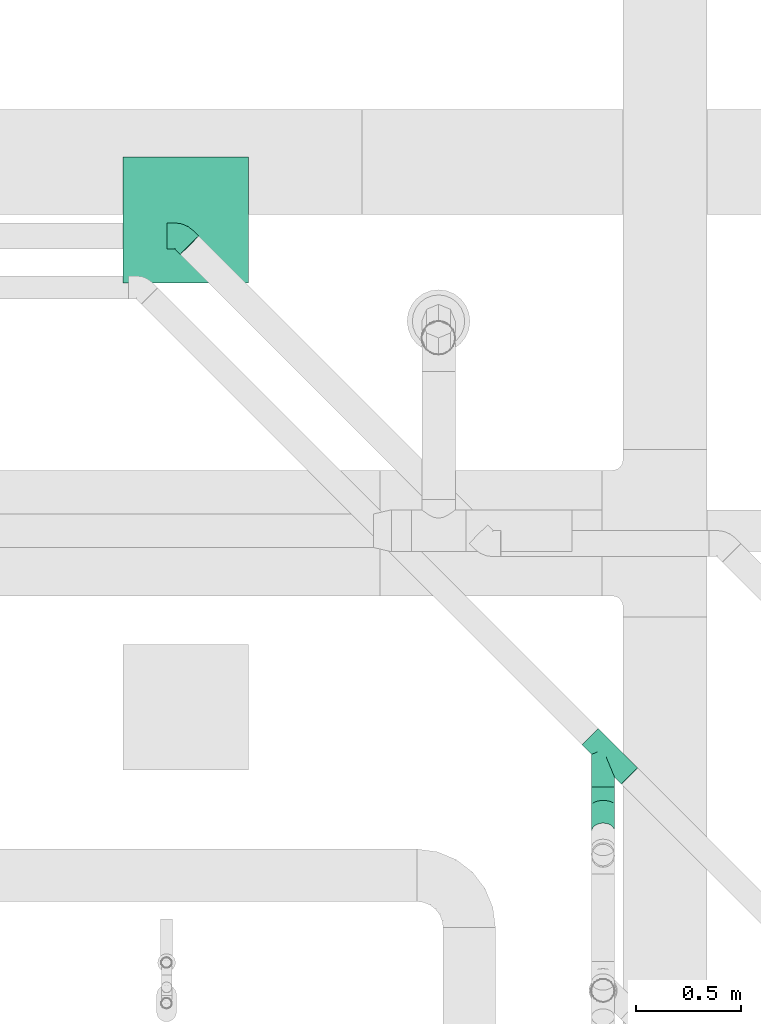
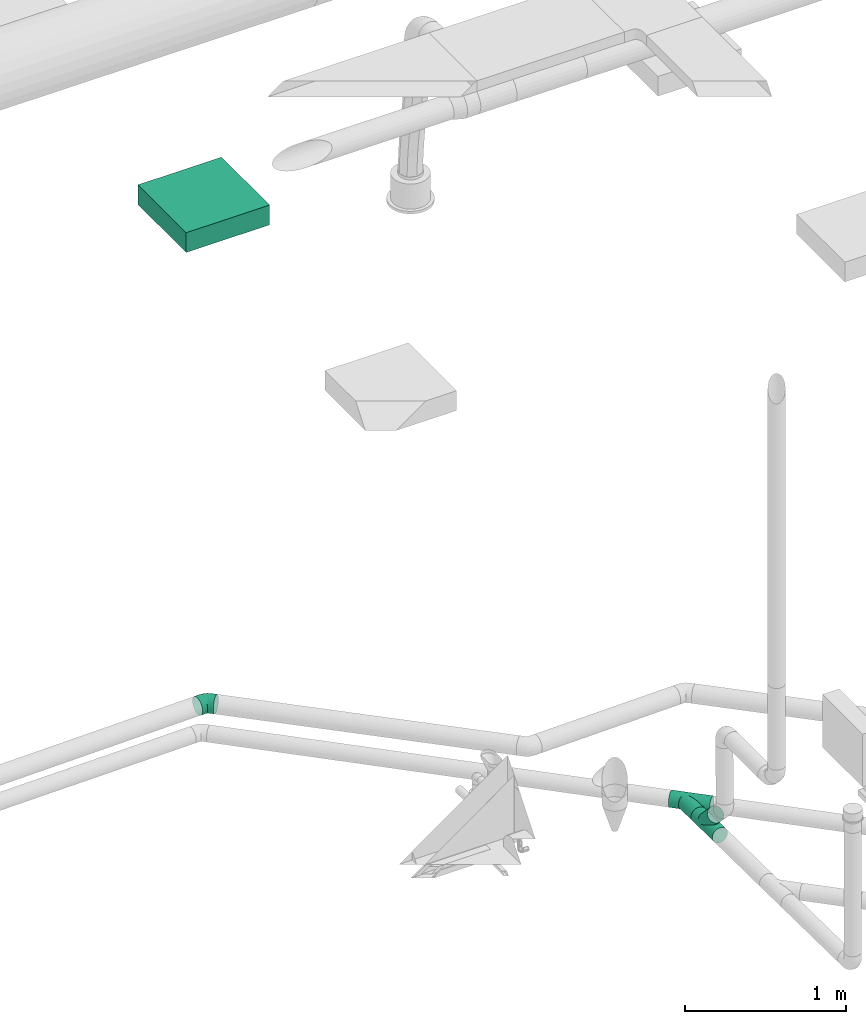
# One storey, part 172 of 374: 3 flow fittings, 1 distribution element.
"""IFC2X3 building model written with IfcOpenShell, lengths in metres."""

from ifc_helpers import new_model, si_unit, direction, frame, frame_2d, origin, place, context, subcontext, project, spatial, rectangle, extrude, open_shell, surface_model, source, transform, mapped, element, save


model = new_model("IFC2X3")

# Units and contexts
model_context = context("Model", 3, precision=1e-05, world=origin(), true_north=direction((-0.4480736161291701, 0.8939966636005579)))
body_context = subcontext(model_context, "Body", "Model", "MODEL_VIEW")
ifc_project = project(units=[si_unit("LENGTHUNIT", "METRE"), si_unit("AREAUNIT", "SQUARE_METRE"), si_unit("VOLUMEUNIT", "CUBIC_METRE"), si_unit("PLANEANGLEUNIT", "RADIAN"), si_unit("THERMODYNAMICTEMPERATUREUNIT", "KELVIN"), si_unit("MASSUNIT", "GRAM", prefix="KILO"), si_unit("TIMEUNIT", "SECOND")], contexts=[model_context])

# Site, building, storey
site_placement = place(None, origin())
site = spatial("IfcSite", under=ifc_project, at=site_placement, Name="Site 1", CompositionType="ELEMENT")
building_placement = place(site_placement, origin())
building = spatial("IfcBuilding", under=site, at=building_placement, Name="Undefined", CompositionType="ELEMENT")
storey_placement = place(building_placement, origin())
storey = spatial("IfcBuildingStorey", under=building, at=storey_placement, Name="Rez de chauss\x8ee", CompositionType="ELEMENT", Elevation=0.0)

# Flow fittings
shared_shape_1 = source(origin(), body_context, "Body", "SurfaceModel", [
    surface_model("IfcFaceBasedSurfaceModel", [(0.2656999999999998, 0.0, 0.0), (0.2656999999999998, 0.014357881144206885, 0.0), (0.0, 0.014357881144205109, -3.552713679e-15), (0.0, 0.0, 0.0), (0.2656999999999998, 0.028226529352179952, -0.0037160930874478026), (0.0, 0.028226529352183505, -0.0037160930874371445), (0.2656999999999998, 0.04066081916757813, -0.01089503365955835), (0.0, 0.04066081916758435, -0.010895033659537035), (0.2656999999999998, 0.050813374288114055, -0.021047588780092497), (0.0, 0.050813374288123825, -0.021047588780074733), (0.2656999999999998, 0.05799231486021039, -0.03348187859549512), (0.0, 0.05799231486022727, -0.033481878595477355), (0.2656999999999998, 0.061708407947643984, -0.04735052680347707), (0.0, 0.061708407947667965, -0.0473505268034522), (0.2656999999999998, 0.06170840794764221, -0.06170840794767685), (0.0, 0.06170840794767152, -0.06170840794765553), (0.2656999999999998, 0.05799231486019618, -0.07557705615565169), (0.0, 0.05799231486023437, -0.07557705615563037), (0.2656999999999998, 0.0508133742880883, -0.08801134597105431), (0.0, 0.05081337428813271, -0.08801134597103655), (0.2656999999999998, 0.04066081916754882, -0.09816390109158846), (0.0, 0.040660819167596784, -0.0981639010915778), (0.2656999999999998, 0.02822652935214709, -0.1053428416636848), (0.0, 0.028226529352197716, -0.10534284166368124), (0.2656999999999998, 0.014357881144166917, -0.10905893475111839), (0.0, 0.014357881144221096, -0.10905893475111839), (0.2656999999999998, -3.6415315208e-14, -0.10905893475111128), (0.0, 1.5987211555e-14, -0.10905893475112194), (0.2656999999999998, -0.013868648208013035, -0.10534284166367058), (0.0, -0.013868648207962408, -0.1053428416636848), (0.2656999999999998, -0.026302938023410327, -0.09816390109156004), (0.0, -0.026302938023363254, -0.0981639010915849), (0.2656999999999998, -0.036455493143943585, -0.08801134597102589), (0.0, -0.03645549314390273, -0.08801134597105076), (0.2656999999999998, -0.04363443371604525, -0.07557705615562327), (0.0, -0.04363443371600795, -0.07557705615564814), (0.2656999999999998, -0.04735052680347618, -0.06170840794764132), (0.0, -0.04735052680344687, -0.06170840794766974), (0.2656999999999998, -0.0473505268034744, -0.047350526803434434), (0.0, -0.04735052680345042, -0.04735052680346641), (0.2656999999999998, -0.043634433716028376, -0.033481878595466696), (0.0, -0.04363443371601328, -0.033481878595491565), (0.2656999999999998, -0.03645549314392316, -0.021047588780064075), (0.0, -0.03645549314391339, -0.021047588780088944), (0.2656999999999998, -0.026302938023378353, -0.010895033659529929), (0.0, -0.026302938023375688, -0.010895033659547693), (0.2656999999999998, -0.013868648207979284, -0.003716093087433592), (0.0, -0.01386864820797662, -0.0037160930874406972), (0.04506825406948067, -0.04735052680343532, -0.06170840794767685), (0.04959268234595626, -0.04363443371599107, -0.07557705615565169), (0.014525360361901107, -0.07840174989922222, -0.08015426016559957), (0.013200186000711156, -0.07894595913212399, -0.06586802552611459), (0.0628576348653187, -0.03645549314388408, -0.08801134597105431), (0.0184105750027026, -0.08052230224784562, -0.09381285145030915), (0.08395912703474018, -0.026302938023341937, -0.09816390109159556), (0.02459105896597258, -0.08516310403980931, -0.10591298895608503), (0.11145912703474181, -0.013868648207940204, -0.1053428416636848), (0.03264562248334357, -0.09200789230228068, -0.11563006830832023), (0.14348355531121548, 3.8191672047e-14, -0.10905893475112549), (0.042025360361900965, -0.10059020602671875, -0.12230188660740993), (0.17785000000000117, 0.014357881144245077, -0.10905893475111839), (0.05209105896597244, -0.1103251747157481, -0.12547377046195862), (0.1837463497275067, 3.8191672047e-14, -0.10905893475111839), (0.06215675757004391, -0.12054937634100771, -0.12492956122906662), (0.18924087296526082, -0.013868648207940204, -0.10534284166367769), (0.07153649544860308, -0.13056604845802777, -0.12070634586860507), (0.1939591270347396, -0.02630293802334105, -0.09816390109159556), (0.07959105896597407, -0.13969257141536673, -0.11309192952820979), (0.19757957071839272, -0.03645549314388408, -0.0880113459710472), (0.08577154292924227, -0.14730698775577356, -0.10260522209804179), (0.1998554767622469, -0.04363443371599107, -0.07557705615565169), (0.08965675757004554, -0.1528903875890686, -0.08996087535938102), (0.20063174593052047, -0.04735052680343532, -0.06170840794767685), (0.09098193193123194, -0.15606227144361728, -0.07602058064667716), (0.1998554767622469, -0.047350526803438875, -0.04735052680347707), (0.08965675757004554, -0.15660648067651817, -0.0617343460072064), (0.19757957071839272, -0.04363443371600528, -0.03348187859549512), (0.08577154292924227, -0.15448592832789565, -0.048075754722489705), (0.1939591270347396, -0.03645549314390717, -0.021047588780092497), (0.07959105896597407, -0.14984512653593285, -0.03597561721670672), (0.18924087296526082, -0.026302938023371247, -0.010895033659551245), (0.07153649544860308, -0.1430003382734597, -0.026258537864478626), (0.1837463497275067, -0.013868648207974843, -0.0037160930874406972), (0.06215675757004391, -0.13441802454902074, -0.019586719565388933), (0.17785000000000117, 8.8817842e-16, 0.0), (0.05209105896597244, -0.12468305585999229, -0.016414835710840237), (0.14348355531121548, -0.013868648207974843, -0.0037160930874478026), (0.042025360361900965, -0.11445885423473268, -0.016959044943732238), (0.11145912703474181, -0.026302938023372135, -0.01089503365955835), (0.03264562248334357, -0.10444218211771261, -0.02118226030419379), (0.08395912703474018, -0.03645549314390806, -0.021047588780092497), (0.02459105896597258, -0.09531565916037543, -0.028796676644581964), (0.0628576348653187, -0.04363443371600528, -0.033481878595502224), (0.0184105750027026, -0.08770124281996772, -0.039283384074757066), (0.04959268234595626, -0.047350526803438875, -0.04735052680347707), (0.014525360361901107, -0.0821178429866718, -0.051927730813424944)], [open_shell([[[0, 1, 2, 3]], [[1, 4, 5, 2]], [[4, 6, 7, 5]], [[6, 8, 9, 7]], [[8, 10, 11, 9]], [[10, 12, 13, 11]], [[12, 14, 15, 13]], [[14, 16, 17, 15]], [[16, 18, 19, 17]], [[18, 20, 21, 19]], [[20, 22, 23, 21]], [[22, 24, 25, 23]], [[24, 26, 27, 25]], [[26, 28, 29, 27]], [[28, 30, 31, 29]], [[30, 32, 33, 31]], [[32, 34, 35, 33]], [[34, 36, 37, 35]], [[36, 38, 39, 37]], [[38, 40, 41, 39]], [[40, 42, 43, 41]], [[42, 44, 45, 43]], [[44, 46, 47, 45]], [[46, 0, 3, 47]], [[48, 49, 50, 51]], [[49, 52, 53, 50]], [[52, 54, 55, 53]], [[54, 56, 57, 55]], [[56, 58, 59, 57]], [[58, 60, 61, 59]], [[60, 62, 63, 61]], [[62, 64, 65, 63]], [[64, 66, 67, 65]], [[66, 68, 69, 67]], [[68, 70, 71, 69]], [[70, 72, 73, 71]], [[72, 74, 75, 73]], [[74, 76, 77, 75]], [[76, 78, 79, 77]], [[78, 80, 81, 79]], [[80, 82, 83, 81]], [[82, 84, 85, 83]], [[84, 86, 87, 85]], [[86, 88, 89, 87]], [[88, 90, 91, 89]], [[90, 92, 93, 91]], [[92, 94, 95, 93]], [[94, 48, 51, 95]]])]),
])
flow_fitting_1_placement = place(storey_placement, origin())
element("IfcFlowFitting", 1, at=flow_fitting_1_placement, inside=storey, Name="PE-HD embranchement 45°", ObjectType="PE-HD embranchement 45°", context=body_context, shape_type="MappedRepresentation", body=[
    mapped(shared_shape_1, transform((57.20089479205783, 14.783699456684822, -1.2652672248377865), x_axis=(-0.7070272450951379, 0.7070272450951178, -0.014998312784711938), y_axis=(0.7002982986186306, 0.7029361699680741, 0.12435044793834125), z_axis=(0.0984620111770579, 0.07741586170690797, -0.9921250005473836))),
])
shared_shape_2 = source(origin(), body_context, "Body", "SurfaceModel", [
    surface_model("IfcFaceBasedSurfaceModel", [(0.0, 0.014357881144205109, -3.552713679e-15), (0.0, 0.0, 0.0), (0.2656999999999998, 0.0, 0.0), (0.2656999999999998, 0.014357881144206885, 0.0), (0.0, -0.01386864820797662, -0.0037160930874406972), (0.2656999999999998, -0.013868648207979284, -0.003716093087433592), (0.0, -0.026302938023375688, -0.010895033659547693), (0.2656999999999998, -0.026302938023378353, -0.010895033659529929), (0.0, -0.03645549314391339, -0.021047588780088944), (0.2656999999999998, -0.03645549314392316, -0.021047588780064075), (0.0, -0.04363443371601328, -0.033481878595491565), (0.2656999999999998, -0.043634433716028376, -0.033481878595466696), (0.0, -0.04735052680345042, -0.04735052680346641), (0.2656999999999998, -0.0473505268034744, -0.047350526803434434), (0.0, -0.04735052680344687, -0.06170840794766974), (0.2656999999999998, -0.04735052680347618, -0.06170840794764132), (0.0, -0.04363443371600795, -0.07557705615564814), (0.2656999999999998, -0.04363443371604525, -0.07557705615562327), (0.0, -0.03645549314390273, -0.08801134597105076), (0.2656999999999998, -0.036455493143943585, -0.08801134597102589), (0.0, -0.026302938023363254, -0.0981639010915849), (0.2656999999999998, -0.026302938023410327, -0.09816390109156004), (0.0, -0.013868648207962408, -0.1053428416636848), (0.2656999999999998, -0.013868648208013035, -0.10534284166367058), (0.0, 1.5987211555e-14, -0.10905893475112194), (0.2656999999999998, -3.6415315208e-14, -0.10905893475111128), (0.0, 0.014357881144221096, -0.10905893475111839), (0.2656999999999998, 0.014357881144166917, -0.10905893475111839), (0.0, 0.028226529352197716, -0.10534284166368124), (0.2656999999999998, 0.02822652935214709, -0.1053428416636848), (0.0, 0.040660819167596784, -0.0981639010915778), (0.2656999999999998, 0.04066081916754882, -0.09816390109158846), (0.0, 0.05081337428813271, -0.08801134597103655), (0.2656999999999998, 0.0508133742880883, -0.08801134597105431), (0.0, 0.05799231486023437, -0.07557705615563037), (0.2656999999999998, 0.05799231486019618, -0.07557705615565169), (0.0, 0.06170840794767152, -0.06170840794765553), (0.2656999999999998, 0.06170840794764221, -0.06170840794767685), (0.0, 0.061708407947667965, -0.0473505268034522), (0.2656999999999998, 0.061708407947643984, -0.04735052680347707), (0.0, 0.05799231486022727, -0.033481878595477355), (0.2656999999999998, 0.05799231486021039, -0.03348187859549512), (0.0, 0.050813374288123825, -0.021047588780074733), (0.2656999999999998, 0.050813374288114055, -0.021047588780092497), (0.0, 0.04066081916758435, -0.010895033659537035), (0.2656999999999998, 0.04066081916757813, -0.01089503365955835), (0.0, 0.028226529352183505, -0.0037160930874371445), (0.2656999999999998, 0.028226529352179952, -0.0037160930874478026), (0.22063174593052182, 0.06170840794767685, -0.06170840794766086), (0.21610731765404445, 0.05799231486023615, -0.07557705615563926), (0.2511746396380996, 0.09275963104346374, -0.08015426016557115), (0.2524998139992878, 0.09330384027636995, -0.06586802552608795), (0.202842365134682, 0.0508133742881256, -0.08801134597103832), (0.24728942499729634, 0.09488018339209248, -0.09381285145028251), (0.18174087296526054, 0.04066081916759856, -0.0981639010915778), (0.2411089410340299, 0.09952098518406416, -0.10591298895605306), (0.15424087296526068, 0.028226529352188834, -0.10534284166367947), (0.2330543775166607, 0.10636577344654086, -0.11563006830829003), (0.12221644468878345, 0.01435788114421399, -0.10905893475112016), (0.22367463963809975, 0.11494808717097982, -0.12230188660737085), (0.08784999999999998, -3.6415315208e-14, -0.10905893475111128), (0.2136089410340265, 0.12468305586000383, -0.1254737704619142), (0.08195365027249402, 0.014357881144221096, -0.10905893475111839), (0.20354324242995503, 0.134907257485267, -0.12492956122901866), (0.07645912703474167, 0.028226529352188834, -0.10534284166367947), (0.19416350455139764, 0.14492392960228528, -0.12070634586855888), (0.07174087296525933, 0.04066081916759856, -0.0981639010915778), (0.18610894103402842, 0.15405045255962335, -0.11309192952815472), (0.06812042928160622, 0.0508133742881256, -0.08801134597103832), (0.17992845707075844, 0.16166486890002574, -0.1026052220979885), (0.06584452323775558, 0.057992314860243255, -0.07557705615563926), (0.17604324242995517, 0.1672482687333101, -0.08996087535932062), (0.06506825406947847, 0.06170840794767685, -0.061708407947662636), (0.174718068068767, 0.1704201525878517, -0.07602058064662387), (0.0658445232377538, 0.06170840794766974, -0.047350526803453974), (0.17604324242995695, 0.17096436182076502, -0.061734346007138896), (0.06812042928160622, 0.05799231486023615, -0.03348187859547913), (0.17992845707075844, 0.16884380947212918, -0.04807575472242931), (0.0717408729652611, 0.0508133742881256, -0.021047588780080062), (0.18610894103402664, 0.1642030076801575, -0.035975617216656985), (0.0764591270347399, 0.040660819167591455, -0.010895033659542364), (0.19416350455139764, 0.1573582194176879, -0.026258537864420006), (0.08195365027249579, 0.028226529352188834, -0.0037160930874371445), (0.2035432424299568, 0.14877590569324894, -0.01958671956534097), (0.08784999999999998, 0.014357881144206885, 0.0), (0.21360894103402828, 0.13904093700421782, -0.016414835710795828), (0.12221644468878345, 0.028226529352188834, -0.003716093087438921), (0.22367463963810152, 0.12881673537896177, -0.01695904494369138), (0.1542408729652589, 0.040660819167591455, -0.010895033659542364), (0.23305437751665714, 0.11880006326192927, -0.021182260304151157), (0.1817408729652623, 0.0508133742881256, -0.021047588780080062), (0.24110894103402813, 0.1096735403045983, -0.02879667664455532), (0.20284236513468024, 0.057992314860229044, -0.03348187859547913), (0.24728942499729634, 0.10205912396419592, -0.03928338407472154), (0.21610731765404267, 0.06170840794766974, -0.04735052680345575), (0.2511746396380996, 0.09647572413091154, -0.05192773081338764)], [open_shell([[[0, 1, 2, 3]], [[1, 4, 5, 2]], [[4, 6, 7, 5]], [[6, 8, 9, 7]], [[8, 10, 11, 9]], [[10, 12, 13, 11]], [[12, 14, 15, 13]], [[14, 16, 17, 15]], [[16, 18, 19, 17]], [[18, 20, 21, 19]], [[20, 22, 23, 21]], [[22, 24, 25, 23]], [[24, 26, 27, 25]], [[26, 28, 29, 27]], [[28, 30, 31, 29]], [[30, 32, 33, 31]], [[32, 34, 35, 33]], [[34, 36, 37, 35]], [[36, 38, 39, 37]], [[38, 40, 41, 39]], [[40, 42, 43, 41]], [[42, 44, 45, 43]], [[44, 46, 47, 45]], [[46, 0, 3, 47]], [[48, 49, 50, 51]], [[49, 52, 53, 50]], [[52, 54, 55, 53]], [[54, 56, 57, 55]], [[56, 58, 59, 57]], [[58, 60, 61, 59]], [[60, 62, 63, 61]], [[62, 64, 65, 63]], [[64, 66, 67, 65]], [[66, 68, 69, 67]], [[68, 70, 71, 69]], [[70, 72, 73, 71]], [[72, 74, 75, 73]], [[74, 76, 77, 75]], [[76, 78, 79, 77]], [[78, 80, 81, 79]], [[80, 82, 83, 81]], [[82, 84, 85, 83]], [[84, 86, 87, 85]], [[86, 88, 89, 87]], [[88, 90, 91, 89]], [[90, 92, 93, 91]], [[92, 94, 95, 93]], [[94, 48, 51, 95]]])]),
])
flow_fitting_2_placement = place(storey_placement, origin())
element("IfcFlowFitting", 2, at=flow_fitting_2_placement, inside=storey, Name="PE-HD embranchement 45°", ObjectType="PE-HD embranchement 45°", context=body_context, shape_type="MappedRepresentation", body=[
    mapped(shared_shape_2, transform((57.02178955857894, 14.732205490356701, -1.224621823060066), x_axis=(0.00038210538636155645, -0.9998875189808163, 0.014993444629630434), y_axis=(-0.13266697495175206, 0.014810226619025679, 0.9910500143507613), z_axis=(-0.9911605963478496, -0.0023678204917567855, -0.13264639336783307))),
])
shared_shape_3 = source(origin(), body_context, "Body", "SurfaceModel", [
    surface_model("IfcFaceBasedSurfaceModel", [(0.0, 0.0163157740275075, 0.0), (0.0, 0.0, 0.0), (0.03640000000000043, 0.0, 0.0), (0.03640000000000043, 0.01631577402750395, -8.8817842e-16), (0.0, -0.015759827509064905, -0.004222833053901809), (0.03640000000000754, -0.01575982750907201, -0.00422283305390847), (0.0, -0.029889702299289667, -0.012380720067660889), (0.03640000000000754, -0.02988970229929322, -0.012380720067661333), (0.0, -0.04142669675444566, -0.02391771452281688), (0.03640000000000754, -0.04142669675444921, -0.023917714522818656), (0.0, -0.04958458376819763, -0.038047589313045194), (0.03640000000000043, -0.04958458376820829, -0.038047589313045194), (0.0, -0.053807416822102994, -0.053807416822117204), (0.03640000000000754, -0.053807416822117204, -0.05380741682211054), (0.0, -0.053807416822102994, -0.07012319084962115), (0.03639999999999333, -0.053807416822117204, -0.07012319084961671), (0.0, -0.04958458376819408, -0.08588301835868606), (0.03640000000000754, -0.04958458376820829, -0.08588301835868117), (0.0, -0.04142669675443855, -0.10001289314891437), (0.03640000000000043, -0.041426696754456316, -0.1000128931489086), (0.0, -0.02988970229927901, -0.11154988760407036), (0.03640000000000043, -0.02988970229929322, -0.11154988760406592), (0.0, -0.015759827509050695, -0.11970777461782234), (0.03640000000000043, -0.015759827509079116, -0.11970777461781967), (0.0, 1.4210854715e-14, -0.12393060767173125), (0.03640000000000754, -1.4210854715e-14, -0.12393060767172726), (0.0, 0.016315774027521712, -0.12393060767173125), (0.03640000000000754, 0.01631577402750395, -0.12393060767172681), (0.0, 0.03207560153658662, -0.11970777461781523), (0.03640000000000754, 0.032075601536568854, -0.11970777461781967), (0.0, 0.04620547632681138, -0.11154988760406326), (0.03640000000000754, 0.04620547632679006, -0.11154988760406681), (0.0, 0.05774247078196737, -0.10001289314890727), (0.03640000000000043, 0.05774247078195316, -0.10001289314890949), (0.0, 0.06590035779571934, -0.08588301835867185), (0.03640000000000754, 0.06590035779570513, -0.08588301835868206), (0.0, 0.0701231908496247, -0.07012319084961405), (0.03640000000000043, 0.07012319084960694, -0.07012319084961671), (0.0, 0.0701231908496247, -0.05380741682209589), (0.03640000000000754, 0.07012319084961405, -0.05380741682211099), (0.0, 0.06590035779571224, -0.03804758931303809), (0.03640000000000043, 0.06590035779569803, -0.03804758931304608), (0.0, 0.05774247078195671, -0.023917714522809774), (0.03640000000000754, 0.057742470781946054, -0.0239177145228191), (0.0, 0.04620547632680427, -0.012380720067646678), (0.03640000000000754, 0.04620547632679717, -0.012380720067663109), (0.0, 0.03207560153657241, -0.004222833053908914), (0.03640000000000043, 0.032075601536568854, -0.00422283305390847), (0.06832402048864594, -0.04964138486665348, -0.07067165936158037), (0.06887509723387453, -0.04956947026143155, -0.054365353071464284), (0.09807338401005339, -0.037427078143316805, -0.0722797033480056), (0.09913799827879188, -0.037144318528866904, -0.056001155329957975), (0.12362157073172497, -0.0179965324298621, -0.07483778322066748), (0.12512720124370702, -0.017378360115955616, -0.05860339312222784), (0.06670834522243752, -0.04562939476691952, -0.08640372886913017), (0.09495209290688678, -0.034033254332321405, -0.08793038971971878), (0.11920728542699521, -0.01558608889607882, -0.09035900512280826), (0.06413817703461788, -0.037806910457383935, -0.100489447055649), (0.08998683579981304, -0.027194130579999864, -0.10188664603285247), (0.11218517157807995, -0.010311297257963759, -0.10410931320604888), (0.060788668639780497, -0.026707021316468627, -0.11196889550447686), (0.08351598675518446, -0.01737578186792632, -0.11319737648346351), (0.10303377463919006, -0.0025316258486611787, -0.11515164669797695), (0.05688808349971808, -0.013086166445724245, -0.12005976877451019), (0.07598052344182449, -0.00524731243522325, -0.1210917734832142), (0.09237674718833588, 0.00722275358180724, -0.1227334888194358), (0.05270224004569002, 0.0021274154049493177, -0.12421068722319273), (0.06789397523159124, 0.008364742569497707, -0.12503184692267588), (0.08094034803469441, 0.018287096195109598, -0.1263381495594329), (0.04851639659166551, 0.017896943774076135, -0.1241387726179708), (0.05980742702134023, 0.02253274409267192, -0.12474908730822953), (0.06950394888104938, 0.029907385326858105, -0.12571997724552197), (0.044615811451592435, 0.03314775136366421, -0.11984892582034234), (0.05227196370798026, 0.036291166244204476, -0.12026276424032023), (0.058846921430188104, 0.04129171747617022, -0.12092109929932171), (0.04126630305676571, 0.04684052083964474, -0.11163349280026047), (0.045801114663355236, 0.04870239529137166, -0.11187861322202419), (0.04969552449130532, 0.05166426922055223, -0.11226855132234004), (0.038696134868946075, 0.05804211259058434, -0.10005234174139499), (0.040835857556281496, 0.058920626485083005, -0.10016800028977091), (0.04267341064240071, 0.060318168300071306, -0.10035199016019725), (0.0370804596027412, 0.06598915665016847, -0.08589470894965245), (0.03771456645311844, 0.06624950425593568, -0.08592898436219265), (0.038259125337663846, 0.06666366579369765, -0.08598350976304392), (0.03652938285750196, 0.07014007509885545, -0.07012541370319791), (0.03664995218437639, 0.07018957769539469, -0.07013193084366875), (0.0367534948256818, 0.07026832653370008, -0.07014229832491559), (0.037080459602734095, 0.07021198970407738, -0.053819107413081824), (0.03771456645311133, 0.07047233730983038, -0.053853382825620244), (0.038259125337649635, 0.07088649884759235, -0.05390790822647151), (0.038696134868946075, 0.06619999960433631, -0.03808703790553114), (0.040835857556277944, 0.06707851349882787, -0.03820269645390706), (0.04267341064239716, 0.06847605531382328, -0.038386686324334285), (0.04126630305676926, 0.05837751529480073, -0.024001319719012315), (0.04580111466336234, 0.060239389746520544, -0.024246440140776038), (0.04969552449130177, 0.06320126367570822, -0.024636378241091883), (0.04461581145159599, 0.04727762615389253, -0.012521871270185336), (0.05227196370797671, 0.050421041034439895, -0.012935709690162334), (0.058846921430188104, 0.055421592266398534, -0.013594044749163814), (0.04851639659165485, 0.03365677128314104, -0.004430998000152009), (0.05980742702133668, 0.038292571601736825, -0.005041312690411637), (0.06950394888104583, 0.045667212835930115, -0.006012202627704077), (0.05270224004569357, 0.018443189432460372, -0.00028007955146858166), (0.06789397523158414, 0.02468051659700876, -0.0011012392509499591), (0.0809403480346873, 0.03460287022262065, -0.0024075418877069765), (0.056888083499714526, 0.00267366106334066, -0.00035199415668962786), (0.07598052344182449, 0.01051251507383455, -0.0013839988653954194), (0.09237674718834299, 0.02298258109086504, -0.0030257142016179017), (0.06078866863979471, -0.012577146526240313, -0.004641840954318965), (0.08351598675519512, -0.003245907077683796, -0.005870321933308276), (0.10303377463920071, 0.01159824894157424, -0.00782459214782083), (0.06413817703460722, -0.02626991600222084, -0.01285727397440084), (0.08998683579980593, -0.015657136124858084, -0.014254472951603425), (0.1121851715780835, 0.0012256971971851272, -0.01647714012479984), (0.06670834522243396, -0.03747150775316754, -0.02443842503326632), (0.09495209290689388, -0.02587536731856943, -0.025965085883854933), (0.11920728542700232, -0.007428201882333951, -0.028393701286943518), (0.06832402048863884, -0.04541855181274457, -0.03859605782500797), (0.09807338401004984, -0.0332042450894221, -0.0402041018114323), (0.12362157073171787, -0.013773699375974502, -0.04276218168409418), (0.14936452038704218, 0.007517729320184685, -0.07819679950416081), (0.15087015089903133, 0.00813590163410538, -0.06196240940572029), (0.14495023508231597, 0.009928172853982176, -0.09371802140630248), (0.1379281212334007, 0.015202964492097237, -0.1074683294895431), (0.12877672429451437, 0.022982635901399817, -0.11851066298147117), (0.11811969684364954, 0.03273701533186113, -0.12609250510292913), (0.10668329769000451, 0.043801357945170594, -0.12969716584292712), (0.09524689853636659, 0.055421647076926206, -0.12907899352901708), (0.0845898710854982, 0.06680597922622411, -0.12428011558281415), (0.07543847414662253, 0.07717853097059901, -0.1156275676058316), (0.06841636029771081, 0.0858324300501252, -0.10371100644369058), (0.06400207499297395, 0.09217792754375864, -0.08934252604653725), (0.06249644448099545, 0.09578258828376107, -0.07350131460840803), (0.0640020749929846, 0.09640076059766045, -0.05726692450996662), (0.06841636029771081, 0.09399031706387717, -0.04174570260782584), (0.07543847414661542, 0.08871552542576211, -0.027995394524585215), (0.0845898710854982, 0.08093585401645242, -0.016953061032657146), (0.09524689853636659, 0.07118147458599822, -0.009371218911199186), (0.10668329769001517, 0.06011713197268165, -0.005766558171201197), (0.11811969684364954, 0.048496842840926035, -0.006384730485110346), (0.12877672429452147, 0.03711251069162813, -0.011183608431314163), (0.13792812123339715, 0.02673995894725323, -0.019836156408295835), (0.14495023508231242, 0.01808605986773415, -0.03175271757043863), (0.14936452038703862, 0.011740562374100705, -0.04612119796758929)], [open_shell([[[0, 1, 2, 3]], [[1, 4, 5, 2]], [[4, 6, 7, 5]], [[6, 8, 9, 7]], [[8, 10, 11, 9]], [[10, 12, 13, 11]], [[12, 14, 15, 13]], [[14, 16, 17, 15]], [[16, 18, 19, 17]], [[18, 20, 21, 19]], [[20, 22, 23, 21]], [[22, 24, 25, 23]], [[24, 26, 27, 25]], [[26, 28, 29, 27]], [[28, 30, 31, 29]], [[30, 32, 33, 31]], [[32, 34, 35, 33]], [[34, 36, 37, 35]], [[36, 38, 39, 37]], [[38, 40, 41, 39]], [[40, 42, 43, 41]], [[42, 44, 45, 43]], [[44, 46, 47, 45]], [[46, 0, 3, 47]], [[13, 15, 48, 49]], [[49, 48, 50, 51]], [[51, 50, 52, 53]], [[15, 17, 54, 48]], [[48, 54, 55, 50]], [[50, 55, 56, 52]], [[17, 19, 57, 54]], [[54, 57, 58, 55]], [[55, 58, 59, 56]], [[19, 21, 60, 57]], [[57, 60, 61, 58]], [[58, 61, 62, 59]], [[21, 23, 63, 60]], [[60, 63, 64, 61]], [[61, 64, 65, 62]], [[23, 25, 66, 63]], [[63, 66, 67, 64]], [[64, 67, 68, 65]], [[25, 27, 69, 66]], [[66, 69, 70, 67]], [[67, 70, 71, 68]], [[27, 29, 72, 69]], [[69, 72, 73, 70]], [[70, 73, 74, 71]], [[29, 31, 75, 72]], [[72, 75, 76, 73]], [[73, 76, 77, 74]], [[31, 33, 78, 75]], [[75, 78, 79, 76]], [[76, 79, 80, 77]], [[33, 35, 81, 78]], [[78, 81, 82, 79]], [[79, 82, 83, 80]], [[35, 37, 84, 81]], [[81, 84, 85, 82]], [[82, 85, 86, 83]], [[37, 39, 87, 84]], [[84, 87, 88, 85]], [[85, 88, 89, 86]], [[39, 41, 90, 87]], [[87, 90, 91, 88]], [[88, 91, 92, 89]], [[41, 43, 93, 90]], [[90, 93, 94, 91]], [[91, 94, 95, 92]], [[43, 45, 96, 93]], [[93, 96, 97, 94]], [[94, 97, 98, 95]], [[45, 47, 99, 96]], [[96, 99, 100, 97]], [[97, 100, 101, 98]], [[47, 3, 102, 99]], [[99, 102, 103, 100]], [[100, 103, 104, 101]], [[3, 2, 105, 102]], [[102, 105, 106, 103]], [[103, 106, 107, 104]], [[2, 5, 108, 105]], [[105, 108, 109, 106]], [[106, 109, 110, 107]], [[5, 7, 111, 108]], [[108, 111, 112, 109]], [[109, 112, 113, 110]], [[7, 9, 114, 111]], [[111, 114, 115, 112]], [[112, 115, 116, 113]], [[9, 11, 117, 114]], [[114, 117, 118, 115]], [[115, 118, 119, 116]], [[11, 13, 49, 117]], [[117, 49, 51, 118]], [[118, 51, 53, 119]], [[53, 52, 120, 121]], [[52, 56, 122, 120]], [[56, 59, 123, 122]], [[59, 62, 124, 123]], [[62, 65, 125, 124]], [[65, 68, 126, 125]], [[68, 71, 127, 126]], [[71, 74, 128, 127]], [[74, 77, 129, 128]], [[77, 80, 130, 129]], [[80, 83, 131, 130]], [[83, 86, 132, 131]], [[86, 89, 133, 132]], [[89, 92, 134, 133]], [[92, 95, 135, 134]], [[95, 98, 136, 135]], [[98, 101, 137, 136]], [[101, 104, 138, 137]], [[104, 107, 139, 138]], [[107, 110, 140, 139]], [[110, 113, 141, 140]], [[113, 116, 142, 141]], [[116, 119, 143, 142]], [[119, 53, 121, 143]]])]),
])
flow_fitting_3_placement = place(storey_placement, origin())
element("IfcFlowFitting", 3, at=flow_fitting_3_placement, inside=storey, Name="PE-HD coude 45°", ObjectType="PE-HD coude 45°", context=body_context, shape_type="MappedRepresentation", body=[
    mapped(shared_shape_3, transform((54.99531602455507, 17.376899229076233, -1.3119134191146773), x_axis=(0.9998000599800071, 0.0, 0.019996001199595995), y_axis=(0.002445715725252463, -0.9924919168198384, -0.1222857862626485), z_axis=(0.019845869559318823, 0.12231024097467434, -0.9922934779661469))),
])

# Distribution element
distribution_element_placement = place(storey_placement, origin())
element("IfcDistributionElement", 4, at=distribution_element_placement, inside=storey, Name="Decken-Rechteckleuchte mit Rahmen AP", ObjectType="Decken-Rechteckleuchte mit Rahmen AP", context=body_context, shape_type="SweptSolid", body=[
    extrude(rectangle(XDim=0.6000000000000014, YDim=0.6000000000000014, at=frame_2d((3.552713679e-15, 0.0), x_axis=(0.0, 1.0))), frame((55.08360573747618, 17.437499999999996, 2.5500000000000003), z_axis=(0.0, 0.0, -1.0), x_axis=(1.0, 0.0, 0.0)), (0.0, 0.0, 1.0), 0.15),
])

save(model, "model.ifc")
